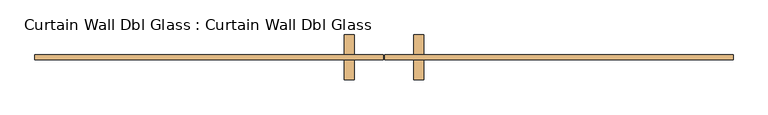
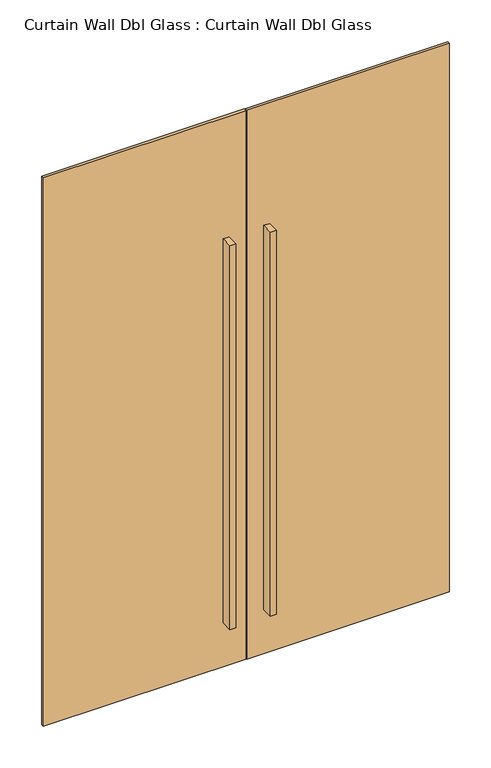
"""IFC4 building model written with IfcOpenShell, lengths in millimetres: door geometry, Curtain Wall Dbl Glass : Curtain Wall Dbl Glass."""

import ifcopenshell
import ifcopenshell.guid

model = None  # the IFC model being written
_history = None  # IfcOwnerHistory: only IFC2X3 demands one
_inside = {}  # id of a spatial element -> (the spatial element, [elements in it])
_under = {}  # id of a project, library or spatial element -> (it, [spatial elements below it])
_declared = {}  # id of a project -> (the project, [libraries it declares])
_typed = {}  # id of a type object -> (the type object, [elements of that type])
_made_of = {}  # id of a material, layer set ... -> (it, [elements and type objects made of it])


def new_model(schema):
    """Start an empty IFC model of exactly this schema.

    Asked for "IFC4X3", IfcOpenShell would pick the latest addendum, in which some entities
    have other attributes; the version numbers below select the first issue.
    IFC2X3 requires an IfcOwnerHistory on every rooted entity: one is made here for all.
    """
    global model, _history
    if schema == "IFC4X3":
        model = ifcopenshell.file(schema_version=(4, 3, 0, 0))
    else:
        model = ifcopenshell.file(schema=schema)
    _inside.clear()
    _under.clear()
    _declared.clear()
    _typed.clear()
    _made_of.clear()
    _history = None
    if model.schema == "IFC2X3":
        org = make("IfcOrganization", Name="unknown")
        user = make(
            "IfcPersonAndOrganization",
            ThePerson=make("IfcPerson", FamilyName="unknown"),
            TheOrganization=org,
        )
        app = make(
            "IfcApplication",
            ApplicationDeveloper=org,
            Version="unknown",
            ApplicationFullName="unknown",
            ApplicationIdentifier="unknown",
        )
        _history = make(
            "IfcOwnerHistory",
            OwningUser=user,
            OwningApplication=app,
            ChangeAction="ADDED",
            CreationDate=0,
        )
    return model


def make(cls, **values):
    """One entity of the class cls with the attributes given. An attribute that is None is left unset."""
    return model.create_entity(
        cls, **{name: value for name, value in values.items() if value is not None}
    )


def rooted(cls, **values):
    """An entity with a GlobalId (a new one), such as an element, a storey or a relation."""
    return make(cls, GlobalId=ifcopenshell.guid.new(), OwnerHistory=_history, **values)


def si_unit(unit_type, name, prefix=None):
    """IfcSIUnit, for example si_unit("LENGTHUNIT", "METRE", prefix="MILLI")."""
    return make("IfcSIUnit", UnitType=unit_type, Prefix=prefix, Name=name)


def assignment(units):
    """IfcUnitAssignment: the units of a project."""
    return None if units is None else make("IfcUnitAssignment", Units=units)


def point(xyz):
    """IfcCartesianPoint."""
    return None if xyz is None else make("IfcCartesianPoint", Coordinates=xyz)


def direction(xyz):
    """IfcDirection."""
    return None if xyz is None else make("IfcDirection", DirectionRatios=xyz)


def frame(location, z_axis=None, x_axis=None):
    """IfcAxis2Placement3D, a coordinate frame: its origin and axes. An axis left out is left unset."""
    return make(
        "IfcAxis2Placement3D",
        Location=point(location),
        Axis=direction(z_axis),
        RefDirection=direction(x_axis),
    )


def origin():
    """The frame at (0, 0, 0) with its axes left unset."""
    return frame((0.0, 0.0, 0.0))


def origin_with_axes():
    """The frame at (0, 0, 0) with the z axis (0, 0, 1) and the x axis (1, 0, 0) written out."""
    return frame((0.0, 0.0, 0.0), z_axis=(0.0, 0.0, 1.0), x_axis=(1.0, 0.0, 0.0))


def place(relative_to, where):
    """IfcLocalPlacement: puts the frame where relative to a parent placement (None: the world)."""
    return make(
        "IfcLocalPlacement", PlacementRelTo=relative_to, RelativePlacement=where
    )


def context(
    kind, dimensions, precision=None, world=None, true_north=None, identifier=None
):
    """IfcGeometricRepresentationContext, for example the 3D "Model" context."""
    return make(
        "IfcGeometricRepresentationContext",
        ContextIdentifier=identifier,
        ContextType=kind,
        CoordinateSpaceDimension=dimensions,
        Precision=precision,
        WorldCoordinateSystem=world,
        TrueNorth=true_north,
    )


def project(units=None, contexts=None):
    """IfcProject with its units and contexts."""
    return rooted(
        "IfcProject",
        Name="project",
        RepresentationContexts=contexts,
        UnitsInContext=assignment(units),
    )


def spatial(cls, under=None, at=None, **own):
    """A site, building, storey or space (cls), placed at a placement, below another one or the project."""
    s = rooted(cls, ObjectPlacement=at, **own)
    if under is not None:
        _under.setdefault(under.id(), (under, []))[1].append(s)
    return s


def polyline(points):
    """IfcPolyline through the points."""
    return make("IfcPolyline", Points=[point(p) for p in points])


def outline(outer, holes=None, kind="AREA"):
    """IfcArbitraryClosedProfileDef: a profile drawn as a closed curve; with holes, ...WithVoids."""
    if holes is None:
        return make("IfcArbitraryClosedProfileDef", ProfileType=kind, OuterCurve=outer)
    return make(
        "IfcArbitraryProfileDefWithVoids",
        ProfileType=kind,
        OuterCurve=outer,
        InnerCurves=holes,
    )


def extrude(swept, where, along, depth):
    """IfcExtrudedAreaSolid: the profile swept, set in the frame where, extruded along a direction by depth."""
    return make(
        "IfcExtrudedAreaSolid",
        SweptArea=swept,
        Position=where,
        ExtrudedDirection=direction(along),
        Depth=depth,
    )


def shape(context_of_items, identifier, shape_type, items):
    """IfcShapeRepresentation: the items that make up one representation, for example the "Body"."""
    return make(
        "IfcShapeRepresentation",
        ContextOfItems=context_of_items,
        RepresentationIdentifier=identifier,
        RepresentationType=shape_type,
        Items=items,
    )


def source(mapping_origin, context_of_items, identifier, shape_type, items):
    """IfcRepresentationMap: a shape defined once, which mapped items show again and again."""
    return make(
        "IfcRepresentationMap",
        MappingOrigin=mapping_origin,
        MappedRepresentation=shape(context_of_items, identifier, shape_type, items),
    )


def transform(
    local_origin,
    x_axis=None,
    y_axis=None,
    z_axis=None,
    scale=None,
    scale2=None,
    scale3=None,
    uniform=True,
):
    """IfcCartesianTransformationOperator3D, or its non-uniform kind. x_axis, y_axis, z_axis: its Axis1, 2, 3."""
    if uniform:
        return make(
            "IfcCartesianTransformationOperator3D",
            Axis1=direction(x_axis),
            Axis2=direction(y_axis),
            LocalOrigin=point(local_origin),
            Scale=scale,
            Axis3=direction(z_axis),
        )
    return make(
        "IfcCartesianTransformationOperator3DnonUniform",
        Axis1=direction(x_axis),
        Axis2=direction(y_axis),
        LocalOrigin=point(local_origin),
        Scale=scale,
        Axis3=direction(z_axis),
        Scale2=scale2,
        Scale3=scale3,
    )


def mapped(mapping_source, mapping_target):
    """IfcMappedItem: shows the shape of a source again, moved by a transform."""
    return make(
        "IfcMappedItem", MappingSource=mapping_source, MappingTarget=mapping_target
    )


def made_of(thing, what):
    """Note that an element or type object is made of a material, layer set ...; save() writes the relation."""
    if what is not None:
        _made_of.setdefault(what.id(), (what, []))[1].append(thing)
    return thing


def element(
    cls,
    number,
    at=None,
    inside=None,
    cuts=None,
    type_object=None,
    material=None,
    context=None,
    identifier="Body",
    shape_type=None,
    held_by="IfcProductDefinitionShape",
    body=None,
    shapes=None,
    **own,
):
    """One element of the class cls, such as IfcWall. Its Tag is "e" and its number.

    at: its placement. inside: the storey or other place that contains it. cuts: it is an
    opening in that element (IfcRelVoidsElement). A single representation is given by context,
    identifier, shape_type and body (its items); several are given by shapes. held_by: the class
    of the entity that holds the representations. save() writes the other relations.
    """
    e = rooted(cls, Tag="e%d" % number, ObjectPlacement=at, **own)
    if body is not None:
        shapes = [shape(context, identifier, shape_type, body)]
    if shapes is not None:
        e.Representation = make(held_by, Representations=shapes)
    if inside is not None:
        _inside.setdefault(inside.id(), (inside, []))[1].append(e)
    if cuts is not None:
        rooted(
            "IfcRelVoidsElement", RelatingBuildingElement=cuts, RelatedOpeningElement=e
        )
    if type_object is not None:
        _typed.setdefault(type_object.id(), (type_object, []))[1].append(e)
    return made_of(e, material)


def aggregate(whole, parts):
    """IfcRelAggregates: a whole, such as a stair, and the parts it consists of."""
    return rooted("IfcRelAggregates", RelatingObject=whole, RelatedObjects=parts)


def save(model, path):
    """Write the relations noted so far, then the file.

    IfcRelAggregates (storeys below a building ...), IfcRelContainedInSpatialStructure (elements
    in a storey), IfcRelDefinesByType, IfcRelAssociatesMaterial and IfcRelDeclares: one each for
    every whole, place, type object, material and project.
    """
    for whole, parts in _under.values():
        aggregate(whole, parts)
    for where, things in _inside.values():
        rooted(
            "IfcRelContainedInSpatialStructure",
            RelatedElements=things,
            RelatingStructure=where,
        )
    for kind, things in _typed.values():
        rooted("IfcRelDefinesByType", RelatedObjects=things, RelatingType=kind)
    for what, things in _made_of.values():
        rooted("IfcRelAssociatesMaterial", RelatedObjects=things, RelatingMaterial=what)
    for by, libraries in _declared.values():
        rooted("IfcRelDeclares", RelatingContext=by, RelatedDefinitions=libraries)
    model.write(path)


def curtain_wall_dbl_glass_curtain_wall_dbl_glass_222e0a92(model_context):
    return source(origin(), model_context, "Body", "SweptSolid", [
        extrude(outline(polyline([(-76.2, 12.7), (-76.2, -38.1), (-101.6, -38.1), (-101.6, 12.7), (-76.2, 12.7)])), frame((0.0, 0.0, 203.2), z_axis=(0.0, 0.0, 1.0), x_axis=(1.0, 0.0, 0.0)), (0.0, 0.0, 1.0), 1778.0),
        extrude(outline(polyline([(-101.6, -101.6), (-101.6, -50.8), (-76.2, -50.8), (-76.2, -101.6), (-101.6, -101.6)])), frame((0.0, 0.0, 203.2), z_axis=(0.0, 0.0, 1.0), x_axis=(1.0, 0.0, 0.0)), (0.0, 0.0, 1.0), 1778.0),
        extrude(outline(polyline([(101.6, 12.7), (101.6, -38.1), (76.2, -38.1), (76.2, 12.7), (101.6, 12.7)])), frame((0.0, 0.0, 203.2), z_axis=(0.0, 0.0, 1.0), x_axis=(1.0, 0.0, 0.0)), (0.0, 0.0, 1.0), 1778.0),
        extrude(outline(polyline([(76.2, -101.6), (76.2, -50.8), (101.6, -50.8), (101.6, -101.6), (76.2, -101.6)])), frame((0.0, 0.0, 203.2), z_axis=(0.0, 0.0, 1.0), x_axis=(1.0, 0.0, 0.0)), (0.0, 0.0, 1.0), 1778.0),
        extrude(outline(polyline([(-1.5875, -38.1), (-1.5875, -50.8), (-889.0, -50.8), (-889.0, -38.1), (-1.5875, -38.1)])), origin_with_axes(), (0.0, 0.0, 1.0), 2540.0),
        extrude(outline(polyline([(889.0, -38.1), (889.0, -50.8), (1.5875, -50.8), (1.5875, -38.1), (889.0, -38.1)])), origin_with_axes(), (0.0, 0.0, 1.0), 2540.0),
    ])


if __name__ == "__main__":
    model = new_model("IFC4")
    model_context = context("Model", 3, world=origin())
    ifc_project = project(units=[si_unit("LENGTHUNIT", "METRE", prefix="MILLI")], contexts=[model_context])
    site = spatial("IfcSite", under=ifc_project)
    building = spatial("IfcBuilding", under=site)
    placement = place(None, origin())
    curtain_wall_dbl_glass_curtain_wall_dbl_glass_shape = curtain_wall_dbl_glass_curtain_wall_dbl_glass_222e0a92(model_context)
    element("IfcDoor", 1, ObjectType="Curtain Wall Dbl Glass : Curtain Wall Dbl Glass", at=placement, inside=building, context=model_context, shape_type="MappedRepresentation", body=[
        mapped(curtain_wall_dbl_glass_curtain_wall_dbl_glass_shape, transform((0.0, 0.0, 0.0), x_axis=(1.0, 0.0, 0.0), y_axis=(0.0, 1.0, 0.0), z_axis=(0.0, 0.0, 1.0))),
    ])
    save(model, "model.ifc")
